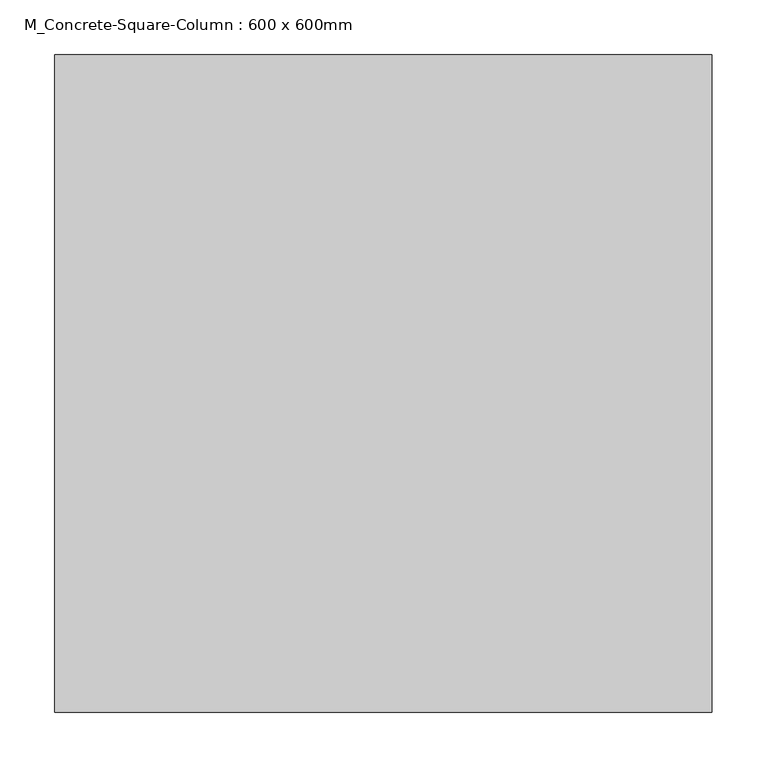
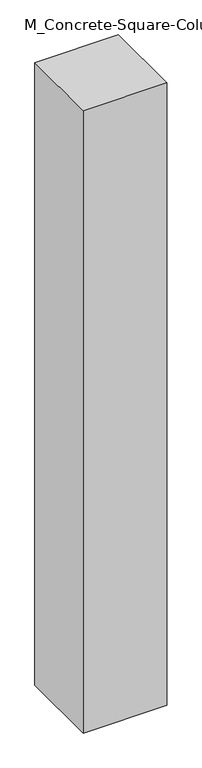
"""IFC4 building model written with IfcOpenShell, lengths in millimetres: column geometry, M_Concrete-Square-Column : 600 x 600mm."""

from ifc_helpers import new_model, si_unit, frame, origin, place, context, project, spatial, polyline, outline, extrude, source, transform, mapped, element, save


def m_concrete_square_column_600_x_600mm_4235e9f2(model_context):
    return source(origin(), model_context, "Body", "SweptSolid", [
        extrude(outline(polyline([(300.0, 300.0), (300.0, -300.0), (-300.0, -300.0), (-300.0, 300.0), (300.0, 300.0)])), frame((0.0, 0.0, -1676.4), z_axis=(0.0, 0.0, 1.0), x_axis=(1.0, 0.0, 0.0)), (0.0, 0.0, 1.0), 4724.4),
    ])


if __name__ == "__main__":
    model = new_model("IFC4")
    model_context = context("Model", 3, world=origin())
    ifc_project = project(units=[si_unit("LENGTHUNIT", "METRE", prefix="MILLI")], contexts=[model_context])
    site = spatial("IfcSite", under=ifc_project)
    building = spatial("IfcBuilding", under=site)
    placement = place(None, origin())
    m_concrete_square_column_600_x_600mm_shape = m_concrete_square_column_600_x_600mm_4235e9f2(model_context)
    element("IfcColumn", 1, ObjectType="M_Concrete-Square-Column : 600 x 600mm", at=placement, inside=building, context=model_context, shape_type="MappedRepresentation", body=[
        mapped(m_concrete_square_column_600_x_600mm_shape, transform((0.0, 0.0, 0.0), x_axis=(1.0, 0.0, 0.0), y_axis=(0.0, 1.0, 0.0), z_axis=(0.0, 0.0, 1.0))),
    ])
    save(model, "model.ifc")
